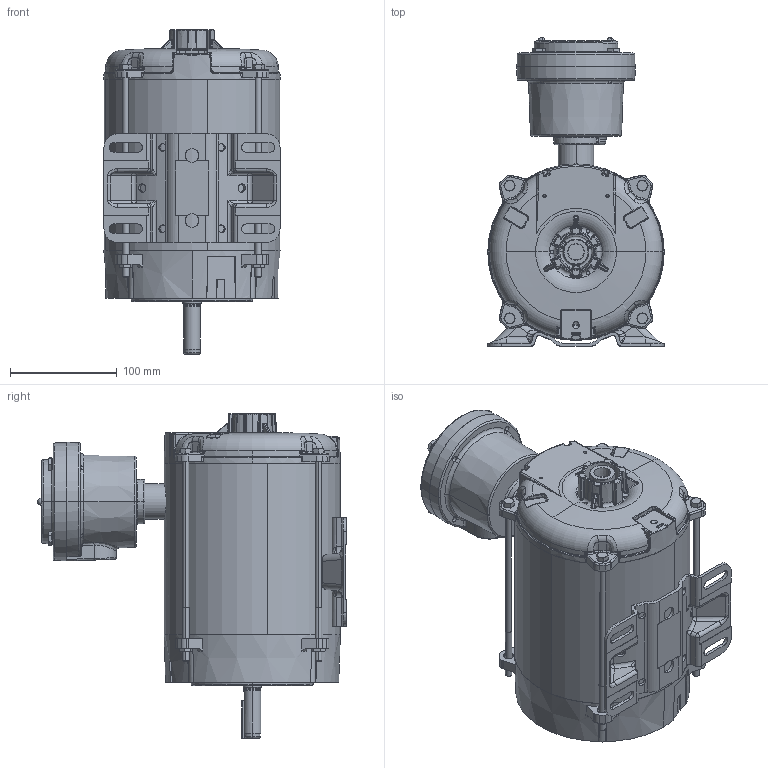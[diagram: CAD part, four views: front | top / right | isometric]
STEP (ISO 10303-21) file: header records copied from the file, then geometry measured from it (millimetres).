
FILE_DESCRIPTION (( 'STEP AP203' ), '1' );
FILE_NAME ('105279-631_Rev05.STEP', '2019-05-14T15:20:13', ( '' ), ( '' ), 'SwSTEP 2.0', 'SolidWorks 2015', '' );
FILE_SCHEMA (( 'CONFIG_CONTROL_DESIGN' ));
Length unit declared in the file: inch
Products named in the file (1): 105279-631_Rev05
Bounding box: 165.3 x 289.26 x 304.04 mm (x, y, z)
Volume: 1200591.6 mm3; surface area: 568808.9 mm2
Topology: 29 solids, 29 shells, 3616 faces, 8727 edges, 5126 vertices
Faces by surface type: bspline 1252, plane 849, cylinder 701, cone 355, torus 350, sphere 109
Entity records: 144493 total; most frequent: CARTESIAN_POINT 69282, ORIENTED_EDGE 17270, DIRECTION 13865, EDGE_CURVE 8635, AXIS2_PLACEMENT_3D 5662, VERTEX_POINT 5122, EDGE_LOOP 3749, FACE_OUTER_BOUND 3616
